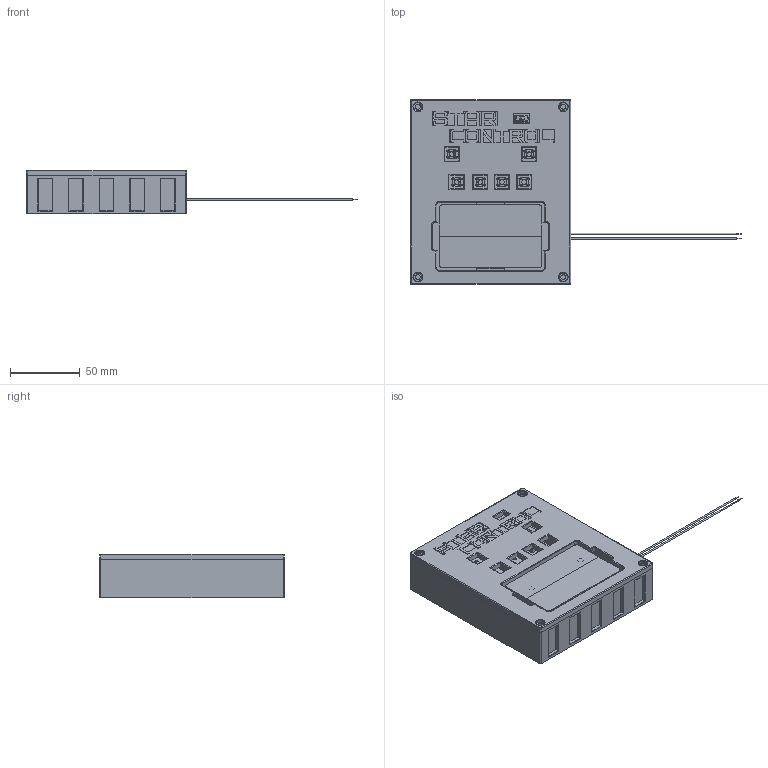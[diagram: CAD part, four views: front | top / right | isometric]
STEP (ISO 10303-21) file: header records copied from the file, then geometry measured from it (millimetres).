
FILE_DESCRIPTION(/* description */ ('STEP AP242 Edition 2','CAx-IF Rec.Pracs.---Representation and Presentation of Product Manufacturing Information (PMI)---4.0---2014-10-13','CAx-IF Rec.Pracs.---3D Tessellated Geometry---0.4---2014-09-14','2;1','CAx-IF Rec.Pracs.---User Defined Attributes---1.5---2016-08-15'),/* implementation_level */ '2;1');
FILE_NAME(/* name */ 'Part Studio 1',/* time_stamp */ '2026-11-25T23:40:57Z',/* author */ (''),/* organization */ (''),/* preprocessor_version */ 'ST-DEVELOPER v20',/* originating_system */ 'ONSHAPE BY PTC INC, 1.224',/* authorisation */ ' ');
FILE_SCHEMA (('AP242_MANAGED_MODEL_BASED_3D_ENGINEERING_MIM_LF { 1 0 10303 442 3 1 4 }'));
Products named in the file (42): SW_PUSH_6mm; PinHeader_1x03_P254mm_Vertical; C_Disc_D50mm_W25mm_P500mm; SOIC-20W_7.5x12.8mm_P1.27mm; SW_PUSH_6mm_1; SW_Slide_SPDT_Straight_CK_OS102011MS2Q; SW_PUSH_6mm_2; CP_Radial_D63mm_P250mm; SW_PUSH_6mm_3; LED_D5.0mm; R_Axial_DIN0207_L63mm_D25mm_P762mm_Horizontal; R_Axial_DIN0207_L63mm_D25mm_P762mm_Horizontal_1; SW_PUSH_6mm_4; SW_PUSH_6mm_5; SW_PUSH_6mm_6; TO-92_Inline_Narrow; R_Axial_DIN0207_L63mm_D25mm_P762mm_Horizontal_2; R_Axial_DIN0207_L63mm_D25mm_P762mm_Horizontal_3; MiniFan_IR_Remote_PCB; Part 5; Part 6; BatteryTop2; Part 1; Battery Case; NONE; BatteryTop1
Bounding box: 237.82 x 132.85 x 31.5 mm (x, y, z)
Volume: 291252.5 mm3; surface area: 158524 mm2
Topology: 30 solids, 43 shells, 2415 faces, 6376 edges, 4172 vertices
Faces by surface type: plane 1518, cylinder 750, torus 100, sphere 35, bspline 8, cone 4
Full cylindrical faces by diameter (mm): 0.35 x1, 0.406 x1, 0.5 x6, 0.55 x16, 0.6 x8, 0.75 x3, 0.8 x15, 0.85 x2, 0.9 x2, 1 x31, 1.016 x6, 1.024 x3, 1.1 x28, 1.5 x2, 1.727 x1, 2.2 x4, 2.25 x4, 2.5 x8, 2.997 x3, 3.5 x11, 4 x4, 4.2 x4, 4.41 x3, 4.9 x1, 6 x4, 6.3 x2, 7.81 x4, 8 x1, 10.2 x4
Entity records: 76832 total; most frequent: CARTESIAN_POINT 15072, DIRECTION 12368, ORIENTED_EDGE 11835, EDGE_CURVE 6009, LINE 4272, VECTOR 4272, VERTEX_POINT 4092, AXIS2_PLACEMENT_3D 4048
